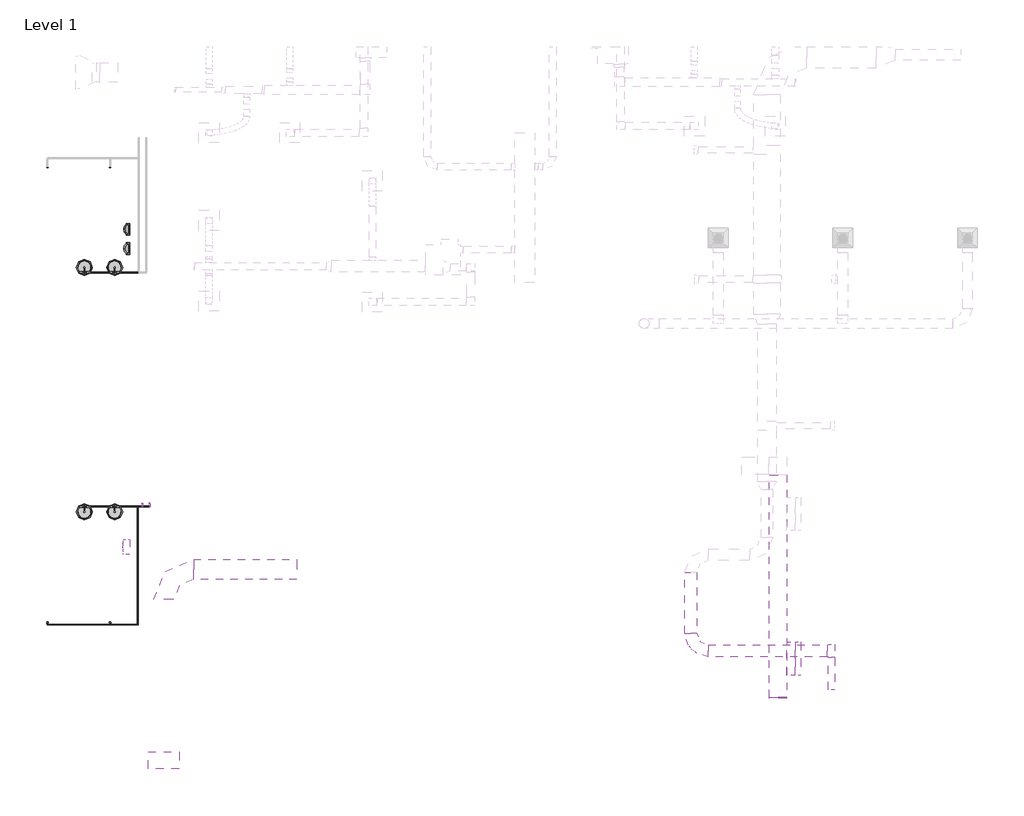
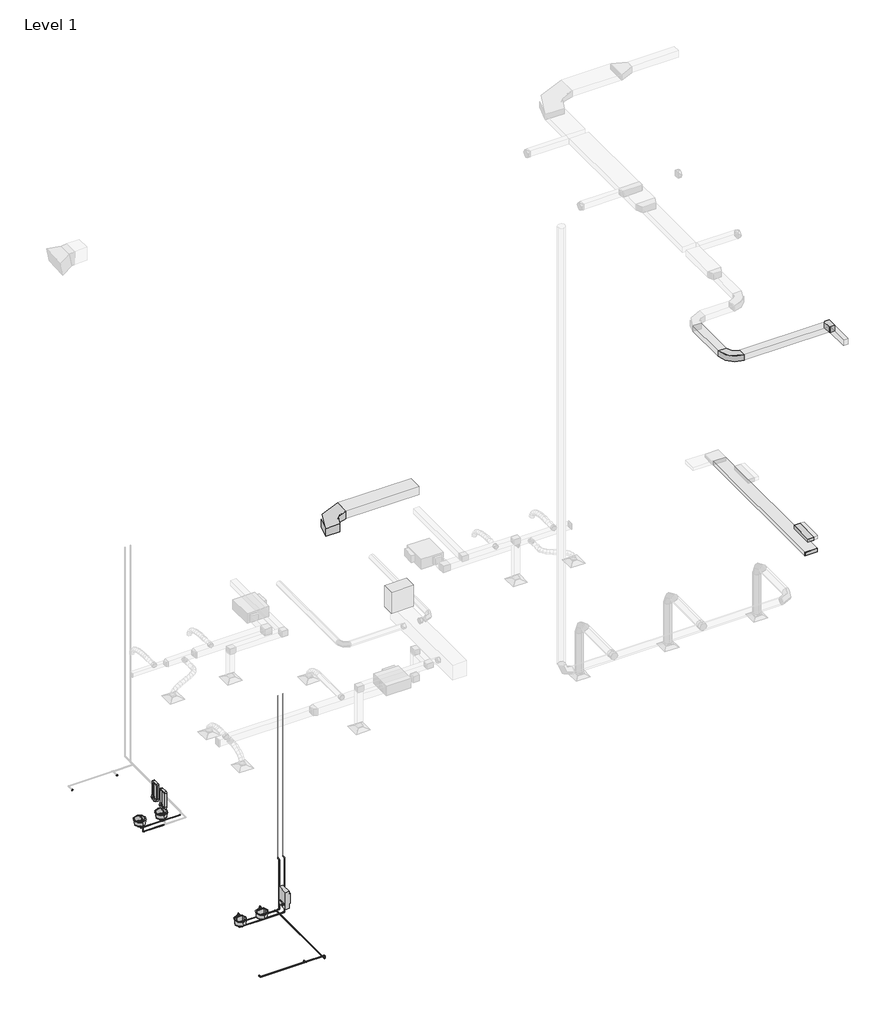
# One storey, part 1 of 7: 27 pipe segments, 20 pipe fittings, 10 flow terminals, 7 duct segments, 5 duct fittings, 1 proxy.
"""IFC4 building model written with IfcOpenShell, lengths in millimetres."""

from ifc_helpers import new_model, si_unit, point, frame, frame_2d, origin, place, context, project, spatial, polyline, circle_curve, trimmed, segment, composite_curve, outline, extrude, transform, mapped, element, save
from components import m_water_heater_tankless_2_3_l_a5d88984, rectangular_elbow_radius_1_5_w_30cb73b9, rectangular_elbow_radius_1_5_w_f0b64ed6, rectangular_endcap_standard_582b4bbf, rectangular_takeoff_standard_b59f4a52, rectangular_tee_standard_e6a0e8cc, flow_terminal_d49f872f, flow_terminal_951b6bfb, m_pipe_connector_domestic_cold_water_plumbing_fixtures_13f2922c, urinal_wall_3d_urinal_wall_3d_4de3570e, elbow_generic_standard_c06ac706, tee_generic_standard_d345b28c, transition_generic_standard_702676cc

model = new_model("IFC4")

# Units and contexts
model_context = context("Model", 3, world=origin())
ifc_project = project(units=[si_unit("LENGTHUNIT", "METRE", prefix="MILLI")], contexts=[model_context])

# Site, building, storey
site = spatial("IfcSite", under=ifc_project)
building = spatial("IfcBuilding", under=site)
storey = spatial("IfcBuildingStorey", under=building, Name="Level 1", Elevation=0.0)

# Proxy
placement = place(None, origin())
m_water_heater_tankless_2_3_l_shape = m_water_heater_tankless_2_3_l_a5d88984(model_context)
element("IfcBuildingElementProxy", 1, Name="M_Water Heater - Tankless : 2.3 L", ObjectType="M_Water Heater - Tankless : 2.3 L", at=placement, inside=storey, context=model_context, shape_type="MappedRepresentation", body=[
    mapped(m_water_heater_tankless_2_3_l_shape, transform((-17012.687755, 673.9956536, 1577.9898627), x_axis=(0.0, -1.0, 0.0), y_axis=(0.0, 0.0, 1.0), z_axis=(-1.0, 0.0, 0.0))),
])

# Duct fittings
rectangular_elbow_radius_1_5_w_shape = rectangular_elbow_radius_1_5_w_30cb73b9(model_context)
element("IfcDuctFitting", 2, ObjectType="Rectangular Elbow - Radius : 1.5 W", at=placement, inside=storey, context=model_context, shape_type="MappedRepresentation", body=[
    mapped(rectangular_elbow_radius_1_5_w_shape, transform((-86.1432457, -2464.4370549, 21983.4257692), x_axis=(0.0, -0.9999999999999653, 2.6363094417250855e-07), y_axis=(0.9999999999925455, -1.0179429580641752e-12, -3.861242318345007e-06), z_axis=(3.8612423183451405e-06, 2.6363094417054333e-07, 0.9999999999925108))),
])
rectangular_elbow_radius_1_5_w_2_shape = rectangular_elbow_radius_1_5_w_f0b64ed6(model_context)
element("IfcDuctFitting", 3, ObjectType="Rectangular Elbow - Radius : 1.5 W", at=placement, inside=storey, context=model_context, shape_type="MappedRepresentation", body=[
    mapped(rectangular_elbow_radius_1_5_w_2_shape, transform((-15990.082755, -7.2046045, 18959.2), x_axis=(-1.0, 0.0, 0.0), y_axis=(0.0, -1.0, 0.0), z_axis=(0.0, 0.0, 1.0))),
])
rectangular_endcap_standard_shape = rectangular_endcap_standard_582b4bbf(model_context)
element("IfcDuctFitting", 4, ObjectType="Rectangular Endcap : Standard", at=placement, inside=storey, context=model_context, shape_type="MappedRepresentation", body=[
    mapped(rectangular_endcap_standard_shape, transform((2551.2663778, -3870.6105339, 13295.0), x_axis=(0.0, -1.0, 0.0), y_axis=(1.0, 0.0, 0.0), z_axis=(0.0, 0.0, 1.0))),
])
rectangular_takeoff_standard_shape = rectangular_takeoff_standard_b59f4a52(model_context)
element("IfcDuctFitting", 5, ObjectType="Rectangular Takeoff : Standard", at=placement, inside=storey, context=model_context, shape_type="MappedRepresentation", body=[
    mapped(rectangular_takeoff_standard_shape, transform((2813.7663778, -2695.7858822, 13295.0), x_axis=(1.0, 0.0, 0.0), y_axis=(0.0, -1.0, 0.0), z_axis=(0.0, 0.0, -1.0))),
])
rectangular_tee_standard_shape = rectangular_tee_standard_e6a0e8cc(model_context)
element("IfcDuctFitting", 6, ObjectType="Rectangular Tee : Standard", at=placement, inside=storey, context=model_context, shape_type="MappedRepresentation", body=[
    mapped(rectangular_tee_standard_shape, transform((4160.3442434, -2464.4370549, 21983.4093774), x_axis=(0.0, -1.0, 0.0), y_axis=(0.9999999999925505, 0.0, -3.859921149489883e-06), z_axis=(3.859921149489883e-06, 0.0, 0.9999999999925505))),
])

# Duct segments
element("IfcDuctSegment", 7, ObjectType="Mitered Elbows / Tees", at=placement, inside=storey, context=model_context, shape_type="SweptSolid", body=[
    extrude(outline(polyline([(88.8567543, -1939.4370549), (-261.1432457, -1939.4370549), (-261.1432457, -89.2370549), (88.8567543, -89.2370549), (88.8567543, -1939.4370549)])), frame((0.0, 0.0, 21858.4256308), z_axis=(0.0, 0.0, 1.0), x_axis=(1.0, 0.0, 0.0)), (0.0, 0.0, 1.0), 250.0),
])
element("IfcDuctSegment", 8, ObjectType="Mitered Elbows / Tees", at=placement, inside=storey, context=model_context, shape_type="SweptSolid", body=[
    extrude(outline(polyline([(0.0, -350.0), (0.0, 0.0), (3596.0874891, 0.0), (3596.0874891, -350.0), (0.0, -350.0)])), frame((438.8562718, -2289.4370549, 21858.423742), z_axis=(3.859921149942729e-06, 0.0, 0.9999999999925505), x_axis=(0.9999999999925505, 0.0, -3.859921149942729e-06)), (0.0, 0.0, 1.0), 250.0),
])
element("IfcDuctSegment", 9, ObjectType="Mitered Elbows / Tees", at=placement, inside=storey, context=model_context, shape_type="SweptSolid", body=[
    extrude(outline(polyline([(0.0, -200.0), (0.0, 0.0), (983.7502147, 0.0), (983.7502147, -200.0), (0.0, -200.0)])), frame((4060.3442434, -3648.5862638, 21858.4014618), z_axis=(0.0, -8.046328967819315e-06, 0.9999999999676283), x_axis=(0.0, 0.9999999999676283, 8.046328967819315e-06)), (0.0, 0.0, 1.0), 250.0),
])
element("IfcDuctSegment", 10, ObjectType="Mitered Elbows / Tees", at=placement, inside=storey, context=model_context, shape_type="SweptSolid", body=[
    extrude(outline(polyline([(2288.7663778, 2841.4894661), (2813.7663778, 2841.4894661), (2813.7663778, -3870.6105339), (2288.7663778, -3870.6105339), (2288.7663778, 2841.4894661)])), frame((0.0, 0.0, 13220.0), z_axis=(0.0, 0.0, 1.0), x_axis=(1.0, 0.0, 0.0)), (0.0, 0.0, 1.0), 150.0),
])
element("IfcDuctSegment", 11, ObjectType="Radius Elbows / Taps", at=placement, inside=storey, context=model_context, shape_type="SweptSolid", body=[
    extrude(outline(polyline([(-15090.082755, -307.2046045), (-15090.082755, 292.7953955), (-11975.1610501, 292.7953955), (-11975.1610501, -307.2046045), (-15090.082755, -307.2046045)])), frame((0.0, 0.0, 18784.2), z_axis=(0.0, 0.0, 1.0), x_axis=(1.0, 0.0, 0.0)), (0.0, 0.0, 1.0), 350.0),
])
element("IfcDuctSegment", 12, ObjectType="Radius Elbows / Taps", at=placement, inside=storey, context=model_context, shape_type="SweptSolid", body=[
    extrude(outline(polyline([(-16459.982755, -5512.1759607), (-15520.182755, -5512.1759607), (-15520.182755, -6032.1759607), (-16459.982755, -6032.1759607), (-16459.982755, -5512.1759607)])), frame((0.0, 0.0, 18489.3), z_axis=(0.0, 0.0, 1.0), x_axis=(1.0, 0.0, 0.0)), (0.0, 0.0, 1.0), 939.8),
])
element("IfcDuctSegment", 13, ObjectType="Radius Elbows / Taps", at=placement, inside=storey, context=model_context, shape_type="SweptSolid", body=[
    extrude(outline(polyline([(3063.7663778, -3195.7858822), (3063.7663778, -2195.7858822), (3239.6959701, -2195.7858822), (3239.6959701, -3195.7858822), (3063.7663778, -3195.7858822)])), frame((0.0, 0.0, 13220.0), z_axis=(0.0, 0.0, 1.0), x_axis=(1.0, 0.0, 0.0)), (0.0, 0.0, 1.0), 150.0),
])

# Flow terminals
flow_terminal_shape = flow_terminal_d49f872f(model_context)
element("IfcFlowTerminal", 14, ObjectType="Sink Vanity-Round-addColdfixture : 19\" x 19\"", at=placement, inside=storey, context=model_context, shape_type="MappedRepresentation", body=[
    mapped(flow_terminal_shape, transform((-17373.2360144, 9203.7677185, 0.0), x_axis=(-1.0, 0.0, 0.0), y_axis=(0.0, -1.0, 0.0), z_axis=(0.0, 0.0, 1.0))),
])
element("IfcFlowTerminal", 15, ObjectType="Sink Vanity-Round-addColdfixture : 19\" x 19\"", at=placement, inside=storey, context=model_context, shape_type="MappedRepresentation", body=[
    mapped(flow_terminal_shape, transform((-18287.6360144, 9203.7677185, 0.0), x_axis=(-1.0, 0.0, 0.0), y_axis=(0.0, -1.0, 0.0), z_axis=(0.0, 0.0, 1.0))),
])
flow_terminal_2_shape = flow_terminal_951b6bfb(model_context)
element("IfcFlowTerminal", 16, ObjectType="Sink Vanity-Round-addColdfixture : 19\" x 19\"", at=placement, inside=storey, context=model_context, shape_type="MappedRepresentation", body=[
    mapped(flow_terminal_2_shape, transform((-17373.2360144, 1654.4297033, 0.0), x_axis=(-1.0, 0.0, 0.0), y_axis=(0.0, -1.0, 0.0), z_axis=(0.0, 0.0, 1.0))),
])
element("IfcFlowTerminal", 17, ObjectType="Sink Vanity-Round-addColdfixture : 19\" x 19\"", at=placement, inside=storey, context=model_context, shape_type="MappedRepresentation", body=[
    mapped(flow_terminal_2_shape, transform((-18287.6360144, 1654.4297033, 0.0), x_axis=(-1.0, 0.0, 0.0), y_axis=(0.0, -1.0, 0.0), z_axis=(0.0, 0.0, 1.0))),
])
m_pipe_connector_domestic_cold_water_plumbing_fixtures_shape = m_pipe_connector_domestic_cold_water_plumbing_fixtures_13f2922c(model_context)
element("IfcFlowTerminal", 18, ObjectType="M_Pipe Connector - Domestic Cold Water - Plumbing Fixtures : Standard", at=placement, inside=storey, context=model_context, shape_type="MappedRepresentation", body=[
    mapped(m_pipe_connector_domestic_cold_water_plumbing_fixtures_shape, transform((-19498.5667549, -1587.6512891, 646.0), x_axis=(1.0, 0.0, 0.0), y_axis=(0.0, 0.0, 1.0), z_axis=(0.0, -1.0, 0.0))),
])
element("IfcFlowTerminal", 19, ObjectType="M_Pipe Connector - Domestic Cold Water - Plumbing Fixtures : Standard", at=placement, inside=storey, context=model_context, shape_type="MappedRepresentation", body=[
    mapped(m_pipe_connector_domestic_cold_water_plumbing_fixtures_shape, transform((-17606.0667549, -1587.6512891, 646.0), x_axis=(1.0, 0.0, 0.0), y_axis=(0.0, 0.0, 1.0), z_axis=(0.0, -1.0, 0.0))),
])
element("IfcFlowTerminal", 20, ObjectType="M_Pipe Connector - Domestic Cold Water - Plumbing Fixtures : Standard", at=placement, inside=storey, context=model_context, shape_type="MappedRepresentation", body=[
    mapped(m_pipe_connector_domestic_cold_water_plumbing_fixtures_shape, transform((-19498.712755, 12121.9987109, 646.0), x_axis=(-1.0, 0.0, 0.0), y_axis=(0.0, 0.0, 1.0), z_axis=(0.0, 1.0, 0.0))),
])
element("IfcFlowTerminal", 21, ObjectType="M_Pipe Connector - Domestic Cold Water - Plumbing Fixtures : Standard", at=placement, inside=storey, context=model_context, shape_type="MappedRepresentation", body=[
    mapped(m_pipe_connector_domestic_cold_water_plumbing_fixtures_shape, transform((-17606.9391493, 12121.9987109, 646.0), x_axis=(-1.0, 0.0, 0.0), y_axis=(0.0, 0.0, 1.0), z_axis=(0.0, 1.0, 0.0))),
])
urinal_wall_3d_urinal_wall_3d_shape = urinal_wall_3d_urinal_wall_3d_4de3570e(model_context)
element("IfcFlowTerminal", 22, ObjectType="Urinal-Wall-3D : Urinal-Wall-3D", at=placement, inside=storey, context=model_context, shape_type="MappedRepresentation", body=[
    mapped(urinal_wall_3d_urinal_wall_3d_shape, transform((-17012.687755, 10376.8733108, 0.0), x_axis=(0.0, 1.0, 0.0), y_axis=(-1.0, 0.0, 0.0), z_axis=(0.0, 0.0, 1.0))),
])
element("IfcFlowTerminal", 23, ObjectType="Urinal-Wall-3D : Urinal-Wall-3D", at=placement, inside=storey, context=model_context, shape_type="MappedRepresentation", body=[
    mapped(urinal_wall_3d_urinal_wall_3d_shape, transform((-17012.687755, 9792.6733108, 0.0), x_axis=(0.0, 1.0, 0.0), y_axis=(-1.0, 0.0, 0.0), z_axis=(0.0, 0.0, 1.0))),
])

# Pipe fittings
elbow_generic_standard_shape = elbow_generic_standard_c06ac706(model_context)
element("IfcPipeFitting", 24, ObjectType="Elbow - Generic : Standard", at=placement, inside=storey, context=model_context, shape_type="MappedRepresentation", body=[
    mapped(elbow_generic_standard_shape, transform((-18435.087755, 8956.675, 500.0), x_axis=(0.0, 0.0, -1.0), y_axis=(1.0, 0.0, 0.0), z_axis=(0.0, -1.0, 0.0))),
])
element("IfcPipeFitting", 25, ObjectType="Elbow - Generic : Standard", at=placement, inside=storey, context=model_context, shape_type="MappedRepresentation", body=[
    mapped(elbow_generic_standard_shape, transform((-18333.487755, 8956.675, 300.0), x_axis=(0.0, 0.0, -1.0), y_axis=(1.0, 0.0, 0.0), z_axis=(0.0, -1.0, 0.0))),
])
element("IfcPipeFitting", 26, ObjectType="Elbow - Generic : Standard", at=placement, inside=storey, context=model_context, shape_type="MappedRepresentation", body=[
    mapped(elbow_generic_standard_shape, transform((-18435.087755, 1901.5224218, 500.0), x_axis=(0.0, 0.0, -1.0), y_axis=(1.0, 0.0, 0.0), z_axis=(0.0, -1.0, 0.0))),
])
element("IfcPipeFitting", 27, ObjectType="Elbow - Generic : Standard", at=placement, inside=storey, context=model_context, shape_type="MappedRepresentation", body=[
    mapped(elbow_generic_standard_shape, transform((-16417.2516493, 2001.4987109, 2743.2), x_axis=(0.0, 0.0, -1.0), y_axis=(0.0, -1.0, 0.0), z_axis=(-1.0, 0.0, 0.0))),
])
element("IfcPipeFitting", 28, ObjectType="Elbow - Generic : Standard", at=placement, inside=storey, context=model_context, shape_type="MappedRepresentation", body=[
    mapped(elbow_generic_standard_shape, transform((-18333.487755, 1901.5224218, 300.0), x_axis=(0.0, 0.0, -1.0), y_axis=(1.0, 0.0, 0.0), z_axis=(0.0, -1.0, 0.0))),
])
element("IfcPipeFitting", 29, ObjectType="Elbow - Generic : Standard", at=placement, inside=storey, context=model_context, shape_type="MappedRepresentation", body=[
    mapped(elbow_generic_standard_shape, transform((-16417.2516493, 1901.5224218, 2743.2), x_axis=(0.0, -1.0, 0.0), y_axis=(0.0, 0.0, -1.0), z_axis=(1.0, 0.0, 0.0))),
])
element("IfcPipeFitting", 30, ObjectType="Elbow - Generic : Standard", at=placement, inside=storey, context=model_context, shape_type="MappedRepresentation", body=[
    mapped(elbow_generic_standard_shape, transform((-19498.5667549, -1668.8887789, 646.0), x_axis=(0.0, -1.0, 0.0), y_axis=(1.0, 0.0, 0.0), z_axis=(0.0, 0.0, 1.0))),
])
element("IfcPipeFitting", 31, ObjectType="Elbow - Generic : Standard", at=placement, inside=storey, context=model_context, shape_type="MappedRepresentation", body=[
    mapped(elbow_generic_standard_shape, transform((-16772.5543948, -1668.8887789, 646.0), x_axis=(1.0, 0.0, 0.0), y_axis=(0.0, 0.0, -1.0), z_axis=(0.0, 1.0, 0.0))),
])
element("IfcPipeFitting", 32, ObjectType="Elbow - Generic : Standard", at=placement, inside=storey, context=model_context, shape_type="MappedRepresentation", body=[
    mapped(elbow_generic_standard_shape, transform((-16642.2516493, 1901.5224218, 2743.2), x_axis=(0.0, 0.0, 1.0), y_axis=(0.0, 1.0, 0.0), z_axis=(-1.0, 0.0, 0.0))),
])
element("IfcPipeFitting", 33, ObjectType="Elbow - Generic : Standard", at=placement, inside=storey, context=model_context, shape_type="MappedRepresentation", body=[
    mapped(elbow_generic_standard_shape, transform((-16642.2516493, 1991.4987109, 2743.2), x_axis=(0.0, 0.0, -1.0), y_axis=(0.0, -1.0, 0.0), z_axis=(-1.0, 0.0, 0.0))),
])
element("IfcPipeFitting", 34, ObjectType="Elbow - Generic : Standard", at=placement, inside=storey, context=model_context, shape_type="MappedRepresentation", body=[
    mapped(elbow_generic_standard_shape, transform((-16417.2516493, 1901.5224218, 300.0), x_axis=(0.0, 0.0, -1.0), y_axis=(-1.0, 0.0, 0.0), z_axis=(0.0, 1.0, 0.0))),
])
element("IfcPipeFitting", 35, ObjectType="Elbow - Generic : Standard", at=placement, inside=storey, context=model_context, shape_type="MappedRepresentation", body=[
    mapped(elbow_generic_standard_shape, transform((-16642.2516493, 1901.5224218, 500.0), x_axis=(0.0, 0.0, -1.0), y_axis=(-1.0, 0.0, 0.0), z_axis=(0.0, 1.0, 0.0))),
])
element("IfcPipeFitting", 36, ObjectType="Elbow - Generic : Standard", at=placement, inside=storey, context=model_context, shape_type="MappedRepresentation", body=[
    mapped(elbow_generic_standard_shape, transform((-16772.5543948, -1668.8887789, 500.0), x_axis=(0.0, 0.0, -1.0), y_axis=(0.0, 1.0, 0.0), z_axis=(1.0, 0.0, 0.0))),
])
tee_generic_standard_shape = tee_generic_standard_d345b28c(model_context)
element("IfcPipeFitting", 37, ObjectType="Tee - Generic : Standard", at=placement, inside=storey, context=model_context, shape_type="MappedRepresentation", body=[
    mapped(tee_generic_standard_shape, transform((-17520.687755, 8956.675, 500.0), x_axis=(-1.0, 0.0, 0.0), y_axis=(0.0, 0.0, -1.0), z_axis=(0.0, -1.0, 0.0))),
])
element("IfcPipeFitting", 38, ObjectType="Tee - Generic : Standard", at=placement, inside=storey, context=model_context, shape_type="MappedRepresentation", body=[
    mapped(tee_generic_standard_shape, transform((-17520.687755, 1901.5224218, 500.0), x_axis=(-1.0, 0.0, 0.0), y_axis=(0.0, 0.0, -1.0), z_axis=(0.0, -1.0, 0.0))),
])
element("IfcPipeFitting", 39, ObjectType="Tee - Generic : Standard", at=placement, inside=storey, context=model_context, shape_type="MappedRepresentation", body=[
    mapped(tee_generic_standard_shape, transform((-17419.087755, 1901.5224218, 300.0), x_axis=(-1.0, 0.0, 0.0), y_axis=(0.0, 0.0, -1.0), z_axis=(0.0, -1.0, 0.0))),
])
element("IfcPipeFitting", 40, ObjectType="Tee - Generic : Standard", at=placement, inside=storey, context=model_context, shape_type="MappedRepresentation", body=[
    mapped(tee_generic_standard_shape, transform((-17606.0667549, -1668.8887789, 646.0), x_axis=(1.0, 0.0, 0.0), y_axis=(0.0, -1.0, 0.0), z_axis=(0.0, 0.0, -1.0))),
])
element("IfcPipeFitting", 41, ObjectType="Tee - Generic : Standard", at=placement, inside=storey, context=model_context, shape_type="MappedRepresentation", body=[
    mapped(tee_generic_standard_shape, transform((-16772.5543948, 1901.5224218, 500.0), x_axis=(-1.0, 0.0, 0.0), y_axis=(0.0, 1.0, 0.0), z_axis=(0.0, 0.0, -1.0))),
])
transition_generic_standard_shape = transition_generic_standard_702676cc(model_context)
element("IfcPipeFitting", 42, ObjectType="Transition - Generic : Standard", at=placement, inside=storey, context=model_context, shape_type="MappedRepresentation", body=[
    mapped(transition_generic_standard_shape, transform((-19498.5667549, -1613.0512891, 646.0), x_axis=(0.0, -1.0, 0.0), y_axis=(1.0, 0.0, 0.0), z_axis=(0.0, 0.0, 1.0))),
])
element("IfcPipeFitting", 43, ObjectType="Transition - Generic : Standard", at=placement, inside=storey, context=model_context, shape_type="MappedRepresentation", body=[
    mapped(transition_generic_standard_shape, transform((-17606.0667549, -1613.0512891, 646.0), x_axis=(0.0, -1.0, 0.0), y_axis=(1.0, 0.0, 0.0), z_axis=(0.0, 0.0, 1.0))),
])

# Pipe segments
element("IfcPipeSegment", 44, ObjectType="Standard", at=placement, inside=storey, context=model_context, shape_type="SweptSolid", body=[
    extrude(outline(composite_curve([segment(trimmed(circle_curve(frame_2d((-17520.687755, 8956.675)), 14.2875), [point((-17506.400255, 8956.675))], [point((-17520.687755, 8942.3875))], False, "CARTESIAN"), True, "CONTINUOUS"), segment(trimmed(circle_curve(frame_2d((-17520.687755, 8956.675)), 14.2875), [point((-17520.687755, 8942.3875))], [point((-17534.975255, 8956.675))], False, "CARTESIAN"), True, "CONTINUOUS"), segment(trimmed(circle_curve(frame_2d((-17520.687755, 8956.675)), 14.2875), [point((-17534.975255, 8956.675))], [point((-17520.687755, 8970.9625))], False, "CARTESIAN"), True, "CONTINUOUS"), segment(trimmed(circle_curve(frame_2d((-17520.687755, 8956.675)), 14.2875), [point((-17520.687755, 8970.9625))], [point((-17506.400255, 8956.675))], False, "CARTESIAN"), True, "CONTINUOUS")], self_intersect=False)), frame((0.0, 0.0, 526.9875), z_axis=(0.0, 0.0, 1.0), x_axis=(1.0, 0.0, 0.0)), (0.0, 0.0, 1.0), 269.9375),
])
element("IfcPipeSegment", 45, ObjectType="Standard", at=placement, inside=storey, context=model_context, shape_type="SweptSolid", body=[
    extrude(outline(composite_curve([segment(trimmed(circle_curve(frame_2d((-18435.087755, 8956.675)), 14.2875), [point((-18420.800255, 8956.675))], [point((-18435.087755, 8942.3875))], False, "CARTESIAN"), True, "CONTINUOUS"), segment(trimmed(circle_curve(frame_2d((-18435.087755, 8956.675)), 14.2875), [point((-18435.087755, 8942.3875))], [point((-18449.375255, 8956.675))], False, "CARTESIAN"), True, "CONTINUOUS"), segment(trimmed(circle_curve(frame_2d((-18435.087755, 8956.675)), 14.2875), [point((-18449.375255, 8956.675))], [point((-18435.087755, 8970.9625))], False, "CARTESIAN"), True, "CONTINUOUS"), segment(trimmed(circle_curve(frame_2d((-18435.087755, 8956.675)), 14.2875), [point((-18435.087755, 8970.9625))], [point((-18420.800255, 8956.675))], False, "CARTESIAN"), True, "CONTINUOUS")], self_intersect=False)), frame((0.0, 0.0, 520.6375), z_axis=(0.0, 0.0, 1.0), x_axis=(1.0, 0.0, 0.0)), (0.0, 0.0, 1.0), 276.2875),
])
element("IfcPipeSegment", 46, ObjectType="Standard", at=placement, inside=storey, context=model_context, shape_type="SweptSolid", body=[
    extrude(outline(composite_curve([segment(trimmed(circle_curve(frame_2d((8956.675, 500.0)), 14.2875), [point((8970.9625, 500.0))], [point((8956.675, 485.7125))], False, "CARTESIAN"), True, "CONTINUOUS"), segment(trimmed(circle_curve(frame_2d((8956.675, 500.0)), 14.2875), [point((8956.675, 485.7125))], [point((8942.3875, 500.0))], False, "CARTESIAN"), True, "CONTINUOUS"), segment(trimmed(circle_curve(frame_2d((8956.675, 500.0)), 14.2875), [point((8942.3875, 500.0))], [point((8956.675, 514.2875))], False, "CARTESIAN"), True, "CONTINUOUS"), segment(trimmed(circle_curve(frame_2d((8956.675, 500.0)), 14.2875), [point((8956.675, 514.2875))], [point((8970.9625, 500.0))], False, "CARTESIAN"), True, "CONTINUOUS")], self_intersect=False)), frame((-18414.450255, 0.0, 0.0), z_axis=(1.0, 0.0, 0.0), x_axis=(0.0, 1.0, 0.0)), (0.0, 0.0, 1.0), 866.775),
])
element("IfcPipeSegment", 47, ObjectType="Standard", at=placement, inside=storey, context=model_context, shape_type="SweptSolid", body=[
    extrude(outline(composite_curve([segment(trimmed(circle_curve(frame_2d((8956.675, 500.0)), 14.2875), [point((8970.9625, 500.0))], [point((8956.675, 485.7125))], False, "CARTESIAN"), True, "CONTINUOUS"), segment(trimmed(circle_curve(frame_2d((8956.675, 500.0)), 14.2875), [point((8956.675, 485.7125))], [point((8942.3875, 500.0))], False, "CARTESIAN"), True, "CONTINUOUS"), segment(trimmed(circle_curve(frame_2d((8956.675, 500.0)), 14.2875), [point((8942.3875, 500.0))], [point((8956.675, 514.2875))], False, "CARTESIAN"), True, "CONTINUOUS"), segment(trimmed(circle_curve(frame_2d((8956.675, 500.0)), 14.2875), [point((8956.675, 514.2875))], [point((8970.9625, 500.0))], False, "CARTESIAN"), True, "CONTINUOUS")], self_intersect=False)), frame((-17493.700255, 0.0, 0.0), z_axis=(1.0, 0.0, 0.0), x_axis=(0.0, 1.0, 0.0)), (0.0, 0.0, 1.0), 725.8111057),
])
element("IfcPipeSegment", 48, ObjectType="Standard", at=placement, inside=storey, context=model_context, shape_type="SweptSolid", body=[
    extrude(outline(composite_curve([segment(trimmed(circle_curve(frame_2d((8956.675, 300.0)), 14.2875), [point((8942.3875, 300.0))], [point((8956.675, 314.2875))], False, "CARTESIAN"), True, "CONTINUOUS"), segment(trimmed(circle_curve(frame_2d((8956.675, 300.0)), 14.2875), [point((8956.675, 314.2875))], [point((8970.9625, 300.0))], False, "CARTESIAN"), True, "CONTINUOUS"), segment(trimmed(circle_curve(frame_2d((8956.675, 300.0)), 14.2875), [point((8970.9625, 300.0))], [point((8956.675, 285.7125))], False, "CARTESIAN"), True, "CONTINUOUS"), segment(trimmed(circle_curve(frame_2d((8956.675, 300.0)), 14.2875), [point((8956.675, 285.7125))], [point((8942.3875, 300.0))], False, "CARTESIAN"), True, "CONTINUOUS")], self_intersect=False)), frame((-18312.850255, 0.0, 0.0), z_axis=(1.0, 0.0, 0.0), x_axis=(0.0, 1.0, 0.0)), (0.0, 0.0, 1.0), 866.775),
])
element("IfcPipeSegment", 49, ObjectType="Standard", at=placement, inside=storey, context=model_context, shape_type="SweptSolid", body=[
    extrude(outline(composite_curve([segment(trimmed(circle_curve(frame_2d((-18333.487755, 8956.675)), 14.2875), [point((-18319.200255, 8956.675))], [point((-18333.487755, 8942.3875))], False, "CARTESIAN"), True, "CONTINUOUS"), segment(trimmed(circle_curve(frame_2d((-18333.487755, 8956.675)), 14.2875), [point((-18333.487755, 8942.3875))], [point((-18347.775255, 8956.675))], False, "CARTESIAN"), True, "CONTINUOUS"), segment(trimmed(circle_curve(frame_2d((-18333.487755, 8956.675)), 14.2875), [point((-18347.775255, 8956.675))], [point((-18333.487755, 8970.9625))], False, "CARTESIAN"), True, "CONTINUOUS"), segment(trimmed(circle_curve(frame_2d((-18333.487755, 8956.675)), 14.2875), [point((-18333.487755, 8970.9625))], [point((-18319.200255, 8956.675))], False, "CARTESIAN"), True, "CONTINUOUS")], self_intersect=False)), frame((0.0, 0.0, 320.6375), z_axis=(0.0, 0.0, 1.0), x_axis=(1.0, 0.0, 0.0)), (0.0, 0.0, 1.0), 476.2875),
])
element("IfcPipeSegment", 50, ObjectType="Standard", at=placement, inside=storey, context=model_context, shape_type="SweptSolid", body=[
    extrude(outline(composite_curve([segment(trimmed(circle_curve(frame_2d((1901.5224218, 500.0)), 14.2875), [point((1915.8099218, 500.0))], [point((1901.5224218, 485.7125))], False, "CARTESIAN"), True, "CONTINUOUS"), segment(trimmed(circle_curve(frame_2d((1901.5224218, 500.0)), 14.2875), [point((1901.5224218, 485.7125))], [point((1887.2349218, 500.0))], False, "CARTESIAN"), True, "CONTINUOUS"), segment(trimmed(circle_curve(frame_2d((1901.5224218, 500.0)), 14.2875), [point((1887.2349218, 500.0))], [point((1901.5224218, 514.2875))], False, "CARTESIAN"), True, "CONTINUOUS"), segment(trimmed(circle_curve(frame_2d((1901.5224218, 500.0)), 14.2875), [point((1901.5224218, 514.2875))], [point((1915.8099218, 500.0))], False, "CARTESIAN"), True, "CONTINUOUS")], self_intersect=False)), frame((-17493.700255, 0.0, 0.0), z_axis=(1.0, 0.0, 0.0), x_axis=(0.0, 1.0, 0.0)), (0.0, 0.0, 1.0), 694.1583601),
])
element("IfcPipeSegment", 51, ObjectType="Standard", at=placement, inside=storey, context=model_context, shape_type="SweptSolid", body=[
    extrude(outline(composite_curve([segment(trimmed(circle_curve(frame_2d((-17520.687755, 1901.5224218)), 14.2875), [point((-17506.400255, 1901.5224218))], [point((-17520.687755, 1887.2349218))], False, "CARTESIAN"), True, "CONTINUOUS"), segment(trimmed(circle_curve(frame_2d((-17520.687755, 1901.5224218)), 14.2875), [point((-17520.687755, 1887.2349218))], [point((-17534.975255, 1901.5224218))], False, "CARTESIAN"), True, "CONTINUOUS"), segment(trimmed(circle_curve(frame_2d((-17520.687755, 1901.5224218)), 14.2875), [point((-17534.975255, 1901.5224218))], [point((-17520.687755, 1915.8099218))], False, "CARTESIAN"), True, "CONTINUOUS"), segment(trimmed(circle_curve(frame_2d((-17520.687755, 1901.5224218)), 14.2875), [point((-17520.687755, 1915.8099218))], [point((-17506.400255, 1901.5224218))], False, "CARTESIAN"), True, "CONTINUOUS")], self_intersect=False)), frame((0.0, 0.0, 526.9875), z_axis=(0.0, 0.0, 1.0), x_axis=(1.0, 0.0, 0.0)), (0.0, 0.0, 1.0), 269.9375),
])
element("IfcPipeSegment", 52, ObjectType="Standard", at=placement, inside=storey, context=model_context, shape_type="SweptSolid", body=[
    extrude(outline(composite_curve([segment(trimmed(circle_curve(frame_2d((1901.5224218, 500.0)), 14.2875), [point((1887.2349218, 500.0))], [point((1901.5224218, 514.2875))], False, "CARTESIAN"), True, "CONTINUOUS"), segment(trimmed(circle_curve(frame_2d((1901.5224218, 500.0)), 14.2875), [point((1901.5224218, 514.2875))], [point((1915.8099218, 500.0))], False, "CARTESIAN"), True, "CONTINUOUS"), segment(trimmed(circle_curve(frame_2d((1901.5224218, 500.0)), 14.2875), [point((1915.8099218, 500.0))], [point((1901.5224218, 485.7125))], False, "CARTESIAN"), True, "CONTINUOUS"), segment(trimmed(circle_curve(frame_2d((1901.5224218, 500.0)), 14.2875), [point((1901.5224218, 485.7125))], [point((1887.2349218, 500.0))], False, "CARTESIAN"), True, "CONTINUOUS")], self_intersect=False)), frame((-18414.450255, 0.0, 0.0), z_axis=(1.0, 0.0, 0.0), x_axis=(0.0, 1.0, 0.0)), (0.0, 0.0, 1.0), 866.775),
])
element("IfcPipeSegment", 53, ObjectType="Standard", at=placement, inside=storey, context=model_context, shape_type="SweptSolid", body=[
    extrude(outline(composite_curve([segment(trimmed(circle_curve(frame_2d((-18435.087755, 1901.5224218)), 14.2875), [point((-18420.800255, 1901.5224218))], [point((-18435.087755, 1887.2349218))], False, "CARTESIAN"), True, "CONTINUOUS"), segment(trimmed(circle_curve(frame_2d((-18435.087755, 1901.5224218)), 14.2875), [point((-18435.087755, 1887.2349218))], [point((-18449.375255, 1901.5224218))], False, "CARTESIAN"), True, "CONTINUOUS"), segment(trimmed(circle_curve(frame_2d((-18435.087755, 1901.5224218)), 14.2875), [point((-18449.375255, 1901.5224218))], [point((-18435.087755, 1915.8099218))], False, "CARTESIAN"), True, "CONTINUOUS"), segment(trimmed(circle_curve(frame_2d((-18435.087755, 1901.5224218)), 14.2875), [point((-18435.087755, 1915.8099218))], [point((-18420.800255, 1901.5224218))], False, "CARTESIAN"), True, "CONTINUOUS")], self_intersect=False)), frame((0.0, 0.0, 520.6375), z_axis=(0.0, 0.0, 1.0), x_axis=(1.0, 0.0, 0.0)), (0.0, 0.0, 1.0), 276.2875),
])
element("IfcPipeSegment", 54, ObjectType="Standard", at=placement, inside=storey, context=model_context, shape_type="SweptSolid", body=[
    extrude(outline(composite_curve([segment(trimmed(circle_curve(frame_2d((646.0, -19498.5667549)), 14.2875), [point((646.0, -19484.2792549))], [point((660.2875, -19498.5667549))], False, "CARTESIAN"), True, "CONTINUOUS"), segment(trimmed(circle_curve(frame_2d((646.0, -19498.5667549)), 14.2875), [point((660.2875, -19498.5667549))], [point((646.0, -19512.8542549))], False, "CARTESIAN"), True, "CONTINUOUS"), segment(trimmed(circle_curve(frame_2d((646.0, -19498.5667549)), 14.2875), [point((646.0, -19512.8542549))], [point((631.7125, -19498.5667549))], False, "CARTESIAN"), True, "CONTINUOUS"), segment(trimmed(circle_curve(frame_2d((646.0, -19498.5667549)), 14.2875), [point((631.7125, -19498.5667549))], [point((646.0, -19484.2792549))], False, "CARTESIAN"), True, "CONTINUOUS")], self_intersect=False)), frame((0.0, -1648.2512789, 0.0), z_axis=(0.0, 1.0, 0.0), x_axis=(0.0, 0.0, 1.0)), (0.0, 0.0, 1.0), 21.7062398),
])
element("IfcPipeSegment", 55, ObjectType="Standard", at=placement, inside=storey, context=model_context, shape_type="SweptSolid", body=[
    extrude(outline(composite_curve([segment(trimmed(circle_curve(frame_2d((646.0, -17606.0667549)), 14.2875), [point((646.0, -17591.7792549))], [point((660.2875, -17606.0667549))], False, "CARTESIAN"), True, "CONTINUOUS"), segment(trimmed(circle_curve(frame_2d((646.0, -17606.0667549)), 14.2875), [point((660.2875, -17606.0667549))], [point((646.0, -17620.3542549))], False, "CARTESIAN"), True, "CONTINUOUS"), segment(trimmed(circle_curve(frame_2d((646.0, -17606.0667549)), 14.2875), [point((646.0, -17620.3542549))], [point((631.7125, -17606.0667549))], False, "CARTESIAN"), True, "CONTINUOUS"), segment(trimmed(circle_curve(frame_2d((646.0, -17606.0667549)), 14.2875), [point((631.7125, -17606.0667549))], [point((646.0, -17591.7792549))], False, "CARTESIAN"), True, "CONTINUOUS")], self_intersect=False)), frame((0.0, -1641.9012789, 0.0), z_axis=(0.0, 1.0, 0.0), x_axis=(0.0, 0.0, 1.0)), (0.0, 0.0, 1.0), 15.3562398),
])
element("IfcPipeSegment", 56, ObjectType="Standard", at=placement, inside=storey, context=model_context, shape_type="SweptSolid", body=[
    extrude(outline(composite_curve([segment(trimmed(circle_curve(frame_2d((-1668.8887789, 646.0)), 14.2875), [point((-1654.6012789, 646.0))], [point((-1668.8887789, 631.7125))], False, "CARTESIAN"), True, "CONTINUOUS"), segment(trimmed(circle_curve(frame_2d((-1668.8887789, 646.0)), 14.2875), [point((-1668.8887789, 631.7125))], [point((-1683.1762789, 646.0))], False, "CARTESIAN"), True, "CONTINUOUS"), segment(trimmed(circle_curve(frame_2d((-1668.8887789, 646.0)), 14.2875), [point((-1683.1762789, 646.0))], [point((-1668.8887789, 660.2875))], False, "CARTESIAN"), True, "CONTINUOUS"), segment(trimmed(circle_curve(frame_2d((-1668.8887789, 646.0)), 14.2875), [point((-1668.8887789, 660.2875))], [point((-1654.6012789, 646.0))], False, "CARTESIAN"), True, "CONTINUOUS")], self_intersect=False)), frame((-19477.9292549, 0.0, 0.0), z_axis=(1.0, 0.0, 0.0), x_axis=(0.0, 1.0, 0.0)), (0.0, 0.0, 1.0), 1844.875),
])
element("IfcPipeSegment", 57, ObjectType="Standard", at=placement, inside=storey, context=model_context, shape_type="SweptSolid", body=[
    extrude(outline(composite_curve([segment(trimmed(circle_curve(frame_2d((-16642.2516493, 1991.4987109)), 14.2875), [point((-16627.9641493, 1991.4987109))], [point((-16642.2516493, 1977.2112109))], False, "CARTESIAN"), True, "CONTINUOUS"), segment(trimmed(circle_curve(frame_2d((-16642.2516493, 1991.4987109)), 14.2875), [point((-16642.2516493, 1977.2112109))], [point((-16656.5391493, 1991.4987109))], False, "CARTESIAN"), True, "CONTINUOUS"), segment(trimmed(circle_curve(frame_2d((-16642.2516493, 1991.4987109)), 14.2875), [point((-16656.5391493, 1991.4987109))], [point((-16642.2516493, 2005.7862109))], False, "CARTESIAN"), True, "CONTINUOUS"), segment(trimmed(circle_curve(frame_2d((-16642.2516493, 1991.4987109)), 14.2875), [point((-16642.2516493, 2005.7862109))], [point((-16627.9641493, 1991.4987109))], False, "CARTESIAN"), True, "CONTINUOUS")], self_intersect=False)), frame((0.0, 0.0, 2763.8375), z_axis=(0.0, 0.0, 1.0), x_axis=(1.0, 0.0, 0.0)), (0.0, 0.0, 1.0), 7236.1625),
])
element("IfcPipeSegment", 58, ObjectType="Standard", at=placement, inside=storey, context=model_context, shape_type="SweptSolid", body=[
    extrude(outline(composite_curve([segment(trimmed(circle_curve(frame_2d((-16417.2516493, 2001.4987109)), 14.2875), [point((-16402.9641493, 2001.4987109))], [point((-16417.2516493, 1987.2112109))], False, "CARTESIAN"), True, "CONTINUOUS"), segment(trimmed(circle_curve(frame_2d((-16417.2516493, 2001.4987109)), 14.2875), [point((-16417.2516493, 1987.2112109))], [point((-16431.5391493, 2001.4987109))], False, "CARTESIAN"), True, "CONTINUOUS"), segment(trimmed(circle_curve(frame_2d((-16417.2516493, 2001.4987109)), 14.2875), [point((-16431.5391493, 2001.4987109))], [point((-16417.2516493, 2015.7862109))], False, "CARTESIAN"), True, "CONTINUOUS"), segment(trimmed(circle_curve(frame_2d((-16417.2516493, 2001.4987109)), 14.2875), [point((-16417.2516493, 2015.7862109))], [point((-16402.9641493, 2001.4987109))], False, "CARTESIAN"), True, "CONTINUOUS")], self_intersect=False)), frame((0.0, 0.0, 2763.8375), z_axis=(0.0, 0.0, 1.0), x_axis=(1.0, 0.0, 0.0)), (0.0, 0.0, 1.0), 7236.1625),
])
element("IfcPipeSegment", 59, ObjectType="Standard", at=placement, inside=storey, context=model_context, shape_type="SweptSolid", body=[
    extrude(outline(composite_curve([segment(trimmed(circle_curve(frame_2d((500.0, -16772.5543948)), 14.2875), [point((500.0, -16786.8418948))], [point((485.7125, -16772.5543948))], False, "CARTESIAN"), True, "CONTINUOUS"), segment(trimmed(circle_curve(frame_2d((500.0, -16772.5543948)), 14.2875), [point((485.7125, -16772.5543948))], [point((500.0, -16758.2668948))], False, "CARTESIAN"), True, "CONTINUOUS"), segment(trimmed(circle_curve(frame_2d((500.0, -16772.5543948)), 14.2875), [point((500.0, -16758.2668948))], [point((514.2875, -16772.5543948))], False, "CARTESIAN"), True, "CONTINUOUS"), segment(trimmed(circle_curve(frame_2d((500.0, -16772.5543948)), 14.2875), [point((514.2875, -16772.5543948))], [point((500.0, -16786.8418948))], False, "CARTESIAN"), True, "CONTINUOUS")], self_intersect=False)), frame((0.0, -1648.2512789, 0.0), z_axis=(0.0, 1.0, 0.0), x_axis=(0.0, 0.0, 1.0)), (0.0, 0.0, 1.0), 3522.7862007),
])
element("IfcPipeSegment", 60, ObjectType="Standard", at=placement, inside=storey, context=model_context, shape_type="SweptSolid", body=[
    extrude(outline(composite_curve([segment(trimmed(circle_curve(frame_2d((-17419.087755, 1901.5224218)), 14.2875), [point((-17404.800255, 1901.5224218))], [point((-17419.087755, 1887.2349218))], False, "CARTESIAN"), True, "CONTINUOUS"), segment(trimmed(circle_curve(frame_2d((-17419.087755, 1901.5224218)), 14.2875), [point((-17419.087755, 1887.2349218))], [point((-17433.375255, 1901.5224218))], False, "CARTESIAN"), True, "CONTINUOUS"), segment(trimmed(circle_curve(frame_2d((-17419.087755, 1901.5224218)), 14.2875), [point((-17433.375255, 1901.5224218))], [point((-17419.087755, 1915.8099218))], False, "CARTESIAN"), True, "CONTINUOUS"), segment(trimmed(circle_curve(frame_2d((-17419.087755, 1901.5224218)), 14.2875), [point((-17419.087755, 1915.8099218))], [point((-17404.800255, 1901.5224218))], False, "CARTESIAN"), True, "CONTINUOUS")], self_intersect=False)), frame((0.0, 0.0, 326.9875), z_axis=(0.0, 0.0, 1.0), x_axis=(1.0, 0.0, 0.0)), (0.0, 0.0, 1.0), 469.9375),
])
element("IfcPipeSegment", 61, ObjectType="Standard", at=placement, inside=storey, context=model_context, shape_type="SweptSolid", body=[
    extrude(outline(composite_curve([segment(trimmed(circle_curve(frame_2d((1901.5224218, 300.0)), 14.2875), [point((1915.8099218, 300.0))], [point((1901.5224218, 285.7125))], False, "CARTESIAN"), True, "CONTINUOUS"), segment(trimmed(circle_curve(frame_2d((1901.5224218, 300.0)), 14.2875), [point((1901.5224218, 285.7125))], [point((1887.2349218, 300.0))], False, "CARTESIAN"), True, "CONTINUOUS"), segment(trimmed(circle_curve(frame_2d((1901.5224218, 300.0)), 14.2875), [point((1887.2349218, 300.0))], [point((1901.5224218, 314.2875))], False, "CARTESIAN"), True, "CONTINUOUS"), segment(trimmed(circle_curve(frame_2d((1901.5224218, 300.0)), 14.2875), [point((1901.5224218, 314.2875))], [point((1915.8099218, 300.0))], False, "CARTESIAN"), True, "CONTINUOUS")], self_intersect=False)), frame((-18333.487755, 0.0, 0.0), z_axis=(1.0, 0.0, 0.0), x_axis=(0.0, 1.0, 0.0)), (0.0, 0.0, 1.0), 887.4125),
])
element("IfcPipeSegment", 62, ObjectType="Standard", at=placement, inside=storey, context=model_context, shape_type="SweptSolid", body=[
    extrude(outline(composite_curve([segment(trimmed(circle_curve(frame_2d((-18333.487755, 1901.5224218)), 14.2875), [point((-18319.200255, 1901.5224218))], [point((-18333.487755, 1887.2349218))], False, "CARTESIAN"), True, "CONTINUOUS"), segment(trimmed(circle_curve(frame_2d((-18333.487755, 1901.5224218)), 14.2875), [point((-18333.487755, 1887.2349218))], [point((-18347.775255, 1901.5224218))], False, "CARTESIAN"), True, "CONTINUOUS"), segment(trimmed(circle_curve(frame_2d((-18333.487755, 1901.5224218)), 14.2875), [point((-18347.775255, 1901.5224218))], [point((-18333.487755, 1915.8099218))], False, "CARTESIAN"), True, "CONTINUOUS"), segment(trimmed(circle_curve(frame_2d((-18333.487755, 1901.5224218)), 14.2875), [point((-18333.487755, 1915.8099218))], [point((-18319.200255, 1901.5224218))], False, "CARTESIAN"), True, "CONTINUOUS")], self_intersect=False)), frame((0.0, 0.0, 320.6375), z_axis=(0.0, 0.0, 1.0), x_axis=(1.0, 0.0, 0.0)), (0.0, 0.0, 1.0), 476.2875),
])
element("IfcPipeSegment", 63, ObjectType="Standard", at=placement, inside=storey, context=model_context, shape_type="SweptSolid", body=[
    extrude(outline(composite_curve([segment(trimmed(circle_curve(frame_2d((-16417.2516493, 1901.5224218)), 14.2875), [point((-16402.9641493, 1901.5224218))], [point((-16417.2516493, 1887.2349218))], False, "CARTESIAN"), True, "CONTINUOUS"), segment(trimmed(circle_curve(frame_2d((-16417.2516493, 1901.5224218)), 14.2875), [point((-16417.2516493, 1887.2349218))], [point((-16431.5391493, 1901.5224218))], False, "CARTESIAN"), True, "CONTINUOUS"), segment(trimmed(circle_curve(frame_2d((-16417.2516493, 1901.5224218)), 14.2875), [point((-16431.5391493, 1901.5224218))], [point((-16417.2516493, 1915.8099218))], False, "CARTESIAN"), True, "CONTINUOUS"), segment(trimmed(circle_curve(frame_2d((-16417.2516493, 1901.5224218)), 14.2875), [point((-16417.2516493, 1915.8099218))], [point((-16402.9641493, 1901.5224218))], False, "CARTESIAN"), True, "CONTINUOUS")], self_intersect=False)), frame((0.0, 0.0, 320.6375), z_axis=(0.0, 0.0, 1.0), x_axis=(1.0, 0.0, 0.0)), (0.0, 0.0, 1.0), 2401.925),
])
element("IfcPipeSegment", 64, ObjectType="Standard", at=placement, inside=storey, context=model_context, shape_type="SweptSolid", body=[
    extrude(outline(composite_curve([segment(trimmed(circle_curve(frame_2d((2743.2, -16417.2516493)), 14.2875), [point((2743.2, -16431.5391493))], [point((2728.9125, -16417.2516493))], False, "CARTESIAN"), True, "CONTINUOUS"), segment(trimmed(circle_curve(frame_2d((2743.2, -16417.2516493)), 14.2875), [point((2728.9125, -16417.2516493))], [point((2743.2, -16402.9641493))], False, "CARTESIAN"), True, "CONTINUOUS"), segment(trimmed(circle_curve(frame_2d((2743.2, -16417.2516493)), 14.2875), [point((2743.2, -16402.9641493))], [point((2757.4875, -16417.2516493))], False, "CARTESIAN"), True, "CONTINUOUS"), segment(trimmed(circle_curve(frame_2d((2743.2, -16417.2516493)), 14.2875), [point((2757.4875, -16417.2516493))], [point((2743.2, -16431.5391493))], False, "CARTESIAN"), True, "CONTINUOUS")], self_intersect=False)), frame((0.0, 1922.1599218, 0.0), z_axis=(0.0, 1.0, 0.0), x_axis=(0.0, 0.0, 1.0)), (0.0, 0.0, 1.0), 58.7012891),
])
element("IfcPipeSegment", 65, ObjectType="Standard", at=placement, inside=storey, context=model_context, shape_type="SweptSolid", body=[
    extrude(outline(composite_curve([segment(trimmed(circle_curve(frame_2d((-1668.8887789, 646.0)), 14.2875), [point((-1683.1762789, 646.0))], [point((-1668.8887789, 660.2875))], False, "CARTESIAN"), True, "CONTINUOUS"), segment(trimmed(circle_curve(frame_2d((-1668.8887789, 646.0)), 14.2875), [point((-1668.8887789, 660.2875))], [point((-1654.6012789, 646.0))], False, "CARTESIAN"), True, "CONTINUOUS"), segment(trimmed(circle_curve(frame_2d((-1668.8887789, 646.0)), 14.2875), [point((-1654.6012789, 646.0))], [point((-1668.8887789, 631.7125))], False, "CARTESIAN"), True, "CONTINUOUS"), segment(trimmed(circle_curve(frame_2d((-1668.8887789, 646.0)), 14.2875), [point((-1668.8887789, 631.7125))], [point((-1683.1762789, 646.0))], False, "CARTESIAN"), True, "CONTINUOUS")], self_intersect=False)), frame((-17579.0792549, 0.0, 0.0), z_axis=(1.0, 0.0, 0.0), x_axis=(0.0, 1.0, 0.0)), (0.0, 0.0, 1.0), 785.88736),
])
element("IfcPipeSegment", 66, ObjectType="Standard", at=placement, inside=storey, context=model_context, shape_type="SweptSolid", body=[
    extrude(outline(composite_curve([segment(trimmed(circle_curve(frame_2d((-16772.5543948, -1668.8887789)), 14.2875), [point((-16758.2668948, -1668.8887789))], [point((-16772.5543948, -1683.1762789))], False, "CARTESIAN"), True, "CONTINUOUS"), segment(trimmed(circle_curve(frame_2d((-16772.5543948, -1668.8887789)), 14.2875), [point((-16772.5543948, -1683.1762789))], [point((-16786.8418948, -1668.8887789))], False, "CARTESIAN"), True, "CONTINUOUS"), segment(trimmed(circle_curve(frame_2d((-16772.5543948, -1668.8887789)), 14.2875), [point((-16786.8418948, -1668.8887789))], [point((-16772.5543948, -1654.6012789))], False, "CARTESIAN"), True, "CONTINUOUS"), segment(trimmed(circle_curve(frame_2d((-16772.5543948, -1668.8887789)), 14.2875), [point((-16772.5543948, -1654.6012789))], [point((-16758.2668948, -1668.8887789))], False, "CARTESIAN"), True, "CONTINUOUS")], self_intersect=False)), frame((0.0, 0.0, 520.6375), z_axis=(0.0, 0.0, 1.0), x_axis=(1.0, 0.0, 0.0)), (0.0, 0.0, 1.0), 104.725),
])
element("IfcPipeSegment", 67, ObjectType="Standard", at=placement, inside=storey, context=model_context, shape_type="SweptSolid", body=[
    extrude(outline(composite_curve([segment(trimmed(circle_curve(frame_2d((2743.2, -16642.2516493)), 14.2875), [point((2743.2, -16627.9641493))], [point((2757.4875, -16642.2516493))], False, "CARTESIAN"), True, "CONTINUOUS"), segment(trimmed(circle_curve(frame_2d((2743.2, -16642.2516493)), 14.2875), [point((2757.4875, -16642.2516493))], [point((2743.2, -16656.5391493))], False, "CARTESIAN"), True, "CONTINUOUS"), segment(trimmed(circle_curve(frame_2d((2743.2, -16642.2516493)), 14.2875), [point((2743.2, -16656.5391493))], [point((2728.9125, -16642.2516493))], False, "CARTESIAN"), True, "CONTINUOUS"), segment(trimmed(circle_curve(frame_2d((2743.2, -16642.2516493)), 14.2875), [point((2728.9125, -16642.2516493))], [point((2743.2, -16627.9641493))], False, "CARTESIAN"), True, "CONTINUOUS")], self_intersect=False)), frame((0.0, 1922.1599218, 0.0), z_axis=(0.0, 1.0, 0.0), x_axis=(0.0, 0.0, 1.0)), (0.0, 0.0, 1.0), 48.7012891),
])
element("IfcPipeSegment", 68, ObjectType="Standard", at=placement, inside=storey, context=model_context, shape_type="SweptSolid", body=[
    extrude(outline(composite_curve([segment(trimmed(circle_curve(frame_2d((-16642.2516493, 1901.5224218)), 14.2875), [point((-16656.5391493, 1901.5224218))], [point((-16642.2516493, 1915.8099218))], False, "CARTESIAN"), True, "CONTINUOUS"), segment(trimmed(circle_curve(frame_2d((-16642.2516493, 1901.5224218)), 14.2875), [point((-16642.2516493, 1915.8099218))], [point((-16627.9641493, 1901.5224218))], False, "CARTESIAN"), True, "CONTINUOUS"), segment(trimmed(circle_curve(frame_2d((-16642.2516493, 1901.5224218)), 14.2875), [point((-16627.9641493, 1901.5224218))], [point((-16642.2516493, 1887.2349218))], False, "CARTESIAN"), True, "CONTINUOUS"), segment(trimmed(circle_curve(frame_2d((-16642.2516493, 1901.5224218)), 14.2875), [point((-16642.2516493, 1887.2349218))], [point((-16656.5391493, 1901.5224218))], False, "CARTESIAN"), True, "CONTINUOUS")], self_intersect=False)), frame((0.0, 0.0, 520.6375), z_axis=(0.0, 0.0, 1.0), x_axis=(1.0, 0.0, 0.0)), (0.0, 0.0, 1.0), 2201.925),
])
element("IfcPipeSegment", 69, ObjectType="Standard", at=placement, inside=storey, context=model_context, shape_type="SweptSolid", body=[
    extrude(outline(composite_curve([segment(trimmed(circle_curve(frame_2d((1901.5224218, 300.0)), 14.2875), [point((1887.2349218, 300.0))], [point((1901.5224218, 314.2875))], False, "CARTESIAN"), True, "CONTINUOUS"), segment(trimmed(circle_curve(frame_2d((1901.5224218, 300.0)), 14.2875), [point((1901.5224218, 314.2875))], [point((1915.8099218, 300.0))], False, "CARTESIAN"), True, "CONTINUOUS"), segment(trimmed(circle_curve(frame_2d((1901.5224218, 300.0)), 14.2875), [point((1915.8099218, 300.0))], [point((1901.5224218, 285.7125))], False, "CARTESIAN"), True, "CONTINUOUS"), segment(trimmed(circle_curve(frame_2d((1901.5224218, 300.0)), 14.2875), [point((1901.5224218, 285.7125))], [point((1887.2349218, 300.0))], False, "CARTESIAN"), True, "CONTINUOUS")], self_intersect=False)), frame((-17392.100255, 0.0, 0.0), z_axis=(1.0, 0.0, 0.0), x_axis=(0.0, 1.0, 0.0)), (0.0, 0.0, 1.0), 954.2111057),
])
element("IfcPipeSegment", 70, ObjectType="Standard", at=placement, inside=storey, context=model_context, shape_type="SweptSolid", body=[
    extrude(outline(composite_curve([segment(trimmed(circle_curve(frame_2d((1901.5224218, 500.0)), 14.2875), [point((1915.8099218, 500.0))], [point((1901.5224218, 485.7125))], False, "CARTESIAN"), True, "CONTINUOUS"), segment(trimmed(circle_curve(frame_2d((1901.5224218, 500.0)), 14.2875), [point((1901.5224218, 485.7125))], [point((1887.2349218, 500.0))], False, "CARTESIAN"), True, "CONTINUOUS"), segment(trimmed(circle_curve(frame_2d((1901.5224218, 500.0)), 14.2875), [point((1887.2349218, 500.0))], [point((1901.5224218, 514.2875))], False, "CARTESIAN"), True, "CONTINUOUS"), segment(trimmed(circle_curve(frame_2d((1901.5224218, 500.0)), 14.2875), [point((1901.5224218, 514.2875))], [point((1915.8099218, 500.0))], False, "CARTESIAN"), True, "CONTINUOUS")], self_intersect=False)), frame((-16745.5668948, 0.0, 0.0), z_axis=(1.0, 0.0, 0.0), x_axis=(0.0, 1.0, 0.0)), (0.0, 0.0, 1.0), 82.6777455),
])

save(model, "model.ifc")
